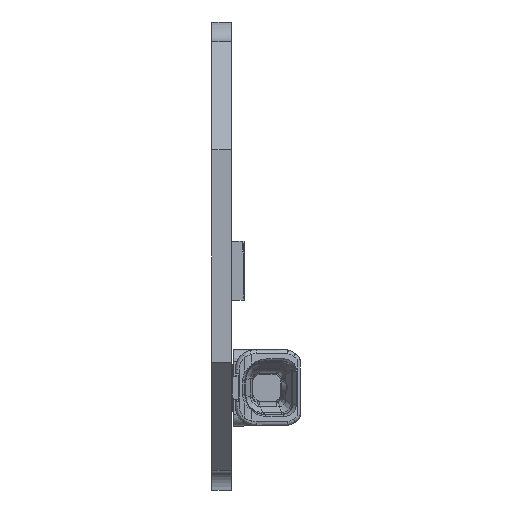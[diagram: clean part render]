
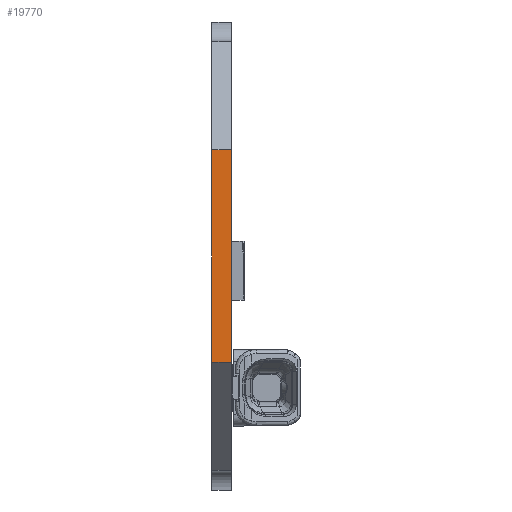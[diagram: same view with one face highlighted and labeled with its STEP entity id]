
A CAD part, left-side view. The second image highlights one B-rep face of the part: STEP entity #19770.
In plain terms, the highlighted planar face has unit normal (-1, 0, 0).
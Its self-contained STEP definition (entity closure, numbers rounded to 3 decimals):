
#990=ORIENTED_EDGE('',*,*,#5954,.F.);
#991=ORIENTED_EDGE('',*,*,#5953,.F.);
#992=ORIENTED_EDGE('',*,*,#5955,.T.);
#993=ORIENTED_EDGE('',*,*,#5956,.T.);
#5953=EDGE_CURVE('',#8435,#8433,#10031,.T.);
#5954=EDGE_CURVE('',#8433,#8436,#10032,.T.);
#5955=EDGE_CURVE('',#8435,#8437,#10033,.T.);
#5956=EDGE_CURVE('',#8437,#8436,#10034,.T.);
#8433=VERTEX_POINT('',#25964);
#8435=VERTEX_POINT('',#25968);
#8436=VERTEX_POINT('',#25972);
#8437=VERTEX_POINT('',#25974);
#10031=LINE('',#25969,#11857);
#10032=LINE('',#25971,#11858);
#10033=LINE('',#25973,#11859);
#10034=LINE('',#25975,#11860);
#11857=VECTOR('',#21875,1000.);
#11858=VECTOR('',#21878,1000.);
#11859=VECTOR('',#21879,1000.);
#11860=VECTOR('',#21880,1000.);
#13681=EDGE_LOOP('',(#990,#991,#992,#993));
#14705=FACE_BOUND('',#13681,.T.);
#15729=PLANE('',#20737);
#19770=ADVANCED_FACE('',(#14705),#15729,.T.);
#20737=AXIS2_PLACEMENT_3D('',#25970,#21876,#21877);
#21875=DIRECTION('',(0.,-1.,0.));
#21876=DIRECTION('',(-1.,0.,0.));
#21877=DIRECTION('',(0.,0.,1.));
#21878=DIRECTION('',(0.,0.,-1.));
#21879=DIRECTION('',(0.,0.,-1.));
#21880=DIRECTION('',(0.,-1.,0.));
#25964=CARTESIAN_POINT('',(-139.75,0.,6.15));
#25968=CARTESIAN_POINT('',(-139.75,1.,6.15));
#25969=CARTESIAN_POINT('',(-139.75,1.,6.15));
#25970=CARTESIAN_POINT('',(-139.75,1.,6.15));
#25971=CARTESIAN_POINT('',(-139.75,0.,6.15));
#25972=CARTESIAN_POINT('',(-139.75,0.,-4.65));
#25973=CARTESIAN_POINT('',(-139.75,1.,6.15));
#25974=CARTESIAN_POINT('',(-139.75,1.,-4.65));
#25975=CARTESIAN_POINT('',(-139.75,1.,-4.65));
